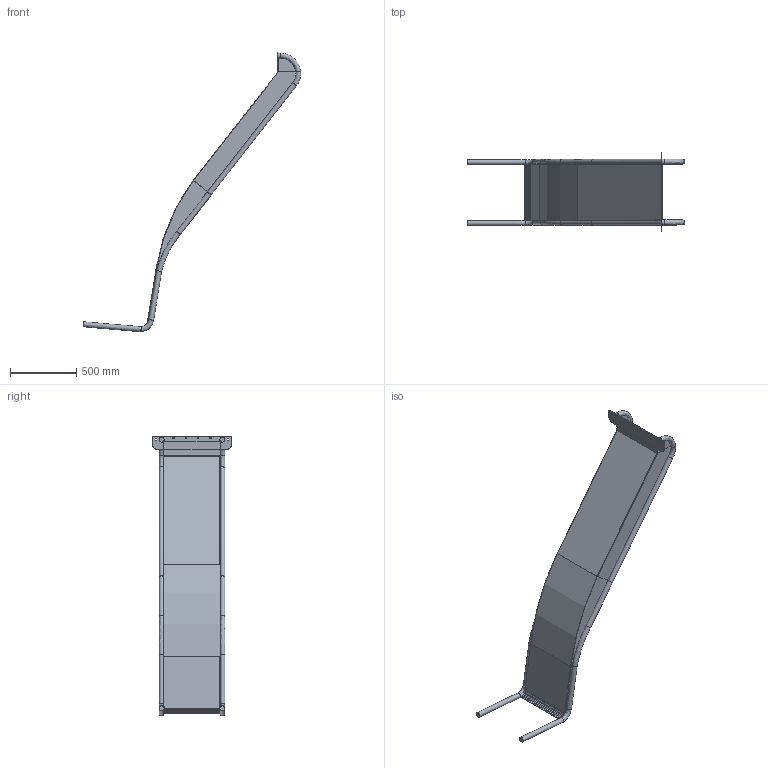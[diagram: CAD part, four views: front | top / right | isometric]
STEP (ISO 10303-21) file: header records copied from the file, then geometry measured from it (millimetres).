
FILE_DESCRIPTION(/* description */ (''),/* implementation_level */ '2;1');
FILE_NAME(/* name */ 'F:\_Inventor\- Tegningsmateriale - kunder\PlayNsafe\PlayNsafe Rutchebaner\100-1100-500 (B500 H1050-1200 uden ører)\100-1100-500.stp',/* time_stamp */ '2026-09-04T11:00:34+02:00',/* author */ ('jm'),/* organization */ (''),/* preprocessor_version */ 'ST-DEVELOPER v18.1',/* originating_system */ 'Autodesk Inventor 2022',/* authorisation */ '');
FILE_SCHEMA (('AUTOMOTIVE_DESIGN { 1 0 10303 214 3 1 1 }'));
Length unit declared in the file: millimetre
Products named in the file (8): 100-1100-500; 100-1100-500 indløb; Rutschebane B50 Øre; bund model til step; højre LB2200; udløb til LB2200 model til step; monterings plade model uden ører; 100-1100-500 rør
Assembly tree (10 placements, depth 2):
  100-1100-500
    100-1100-500 indløb
    Rutschebane B50 Øre  x2
    bund model til step
    højre LB2200  x2
    udløb til LB2200 model til step
    monterings plade model uden ører
    100-1100-500 rør  x2
Bounding box: 1644.14 x 595 x 2113.95 mm (x, y, z)
Volume: 10100726.9 mm3; surface area: 3878008.4 mm2
Topology: 10 solids, 10 shells, 231 faces, 531 edges, 317 vertices
Faces by surface type: plane 147, cylinder 62, bspline 18, cone 4
Full cylindrical faces by diameter (mm): 6.5 x4, 38 x10, 38.5 x2
Entity records: 6970 total; most frequent: CARTESIAN_POINT 2080, DIRECTION 985, ORIENTED_EDGE 924, EDGE_CURVE 462, AXIS2_PLACEMENT_3D 330, LINE 325, VECTOR 325, VERTEX_POINT 275
